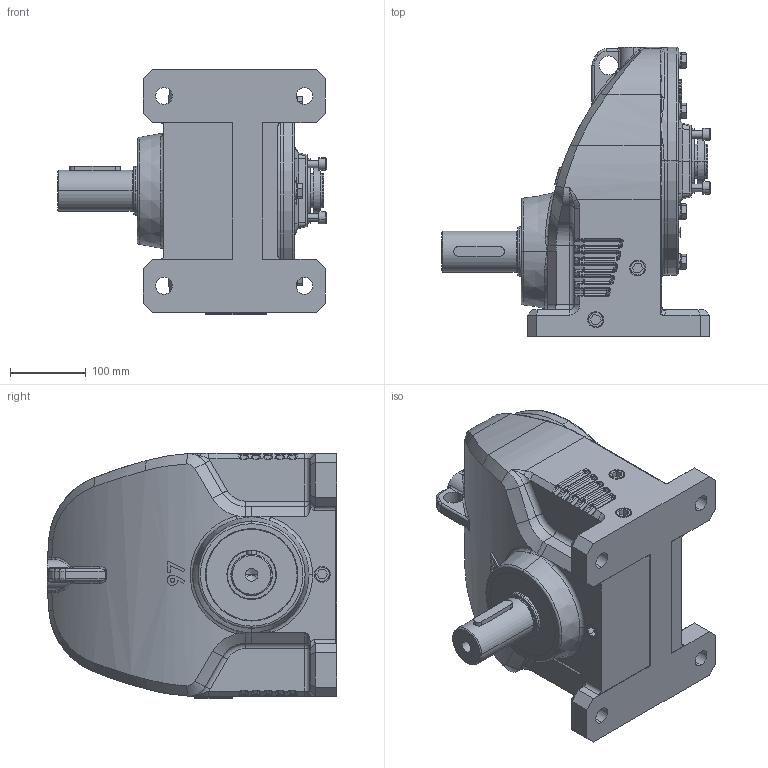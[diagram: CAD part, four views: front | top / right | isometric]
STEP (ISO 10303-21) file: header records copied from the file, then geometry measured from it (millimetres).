
FILE_DESCRIPTION (( 'STEP AP203' ), '1' );
FILE_NAME ('RX097HF-182TC.STEP', '2015-03-16T05:54:35', ( 'user' ), ( '' ), 'SwSTEP 2.0', 'SolidWorks 2012', '' );
FILE_SCHEMA (( 'CONFIG_CONTROL_DESIGN' ));
Length unit declared in the file: millimetre
Products named in the file (25): P105_JKGA1827R; PCA018_PCA018; PKD0606018; PSS045060091; PTAA10035; KNGH182T18_KNGH182T18; JHGA09703; PSS065120151; PKD1409027S; PJB04; PCA055_JIS B 2804 Shaft use 55; PCB120; PBA6311_SKF - 6311 - 10,DE,NC,10_68; KEGX097; JCHX097; RX097HF-182TC; JSPC050060005A; PKD1_2067; PCA050; PBA6310_SKF - 6310 - 10,DE,NC,10_68; JKGB10784L_JKGB10784L; 097法蘭入力組合182T; PBA6009_PBA6009; PWS12; PTBA12035_PTBA12040
Assembly tree (43 placements, depth 3):
  RX097HF-182TC
    JCHX097
    KEGX097
    PBA6311_SKF - 6311 - 10,DE,NC,10_68
    PCB120
    PCA055_JIS B 2804 Shaft use 55
    PJB04  x5
    PKD1409027S
    PSS065120151
    097法蘭入力組合182T
      JHGA09703
      KNGH182T18_KNGH182T18
      PTAA10035  x4
      PSS045060091
      PKD0606018
      PCA018_PCA018
      P105_JKGA1827R
      PTBA12035_PTBA12040  x6
      PWS12  x6
      PBA6009_PBA6009  x2
      PJB04
    JKGB10784L_JKGB10784L
    PBA6310_SKF - 6310 - 10,DE,NC,10_68
    PCA050
    PKD1_2067
    JSPC050060005A
Bounding box: 354 x 381 x 323 mm (x, y, z)
Volume: 6932643.4 mm3; surface area: 1402218 mm2
Topology: 42 solids, 42 shells, 2237 faces, 6032 edges, 3735 vertices
Faces by surface type: cylinder 683, plane 595, torus 354, bspline 254, cone 239, sphere 112
Entity records: 74900 total; most frequent: CARTESIAN_POINT 28849, ORIENTED_EDGE 9432, DIRECTION 8693, EDGE_CURVE 4716, AXIS2_PLACEMENT_3D 3608, VERTEX_POINT 2949, CIRCLE 2001, EDGE_LOOP 1975
